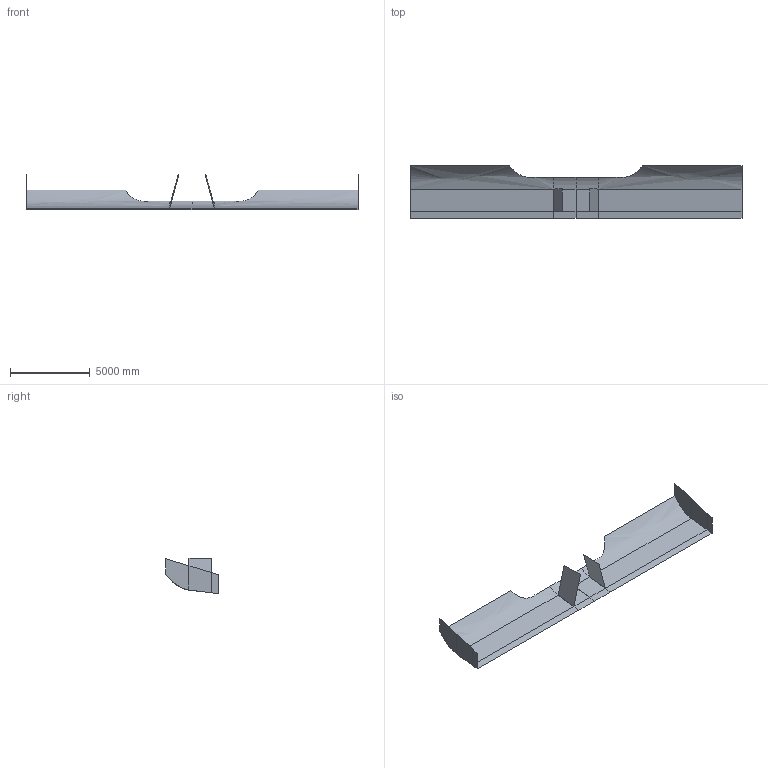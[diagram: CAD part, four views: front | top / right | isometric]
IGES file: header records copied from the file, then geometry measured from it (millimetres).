
Start section: ACIS data in IGES format
Global section: file name: Unknown; native system: ACIS; preprocessor: *IGES writer V5.2; author: Unknown; organization: Unknown; date: 20040602.062154; units: millimetre
Bounding box: 20800 x 3300.61 x 2227.81 mm (x, y, z)
Surface area: 83693519.4 mm2 (no closed solid volume)
Topology: 0 solids, 0 shells, 20 faces, 84 edges, 84 vertices
Faces by surface type: bspline 20
